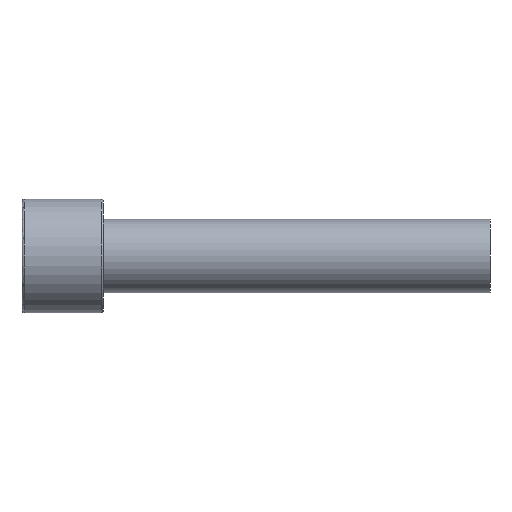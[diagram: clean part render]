
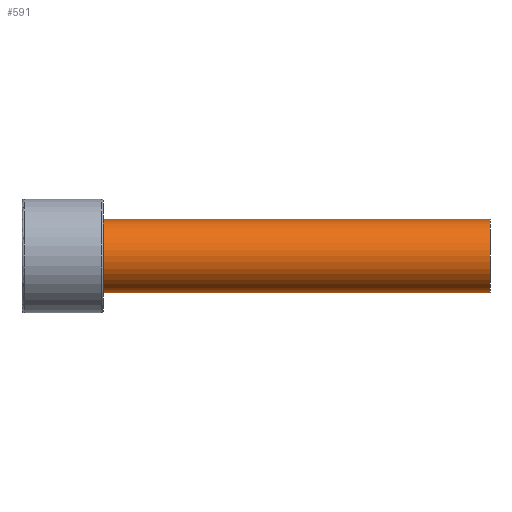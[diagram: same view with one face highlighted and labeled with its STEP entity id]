
A CAD part, front view. The second image highlights one B-rep face of the part: STEP entity #591.
In plain terms, the highlighted cylindrical face has radius 9 mm (diameter 18 mm), a partial arc.
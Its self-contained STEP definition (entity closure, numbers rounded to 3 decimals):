
#425=CARTESIAN_POINT('Vertex',(115.,0.,9.)) ;
#428=CARTESIAN_POINT('Axis2P3D Location',(115.,0.,0.)) ;
#432=CARTESIAN_POINT('Vertex',(115.,-9.,0.)) ;
#435=CARTESIAN_POINT('Axis2P3D Location',(115.,0.,0.)) ;
#439=CARTESIAN_POINT('Vertex',(115.,0.,-9.)) ;
#531=CARTESIAN_POINT('Line Origine',(115.,0.,9.)) ;
#535=CARTESIAN_POINT('Vertex',(20.,0.,9.)) ;
#538=CARTESIAN_POINT('Line Origine',(115.,0.,-9.)) ;
#542=CARTESIAN_POINT('Vertex',(20.,0.,-9.)) ;
#566=CARTESIAN_POINT('Axis2P3D Location',(115.,0.,0.)) ;
#571=CARTESIAN_POINT('Axis2P3D Location',(20.,0.,0.)) ;
#575=CARTESIAN_POINT('Vertex',(20.,-9.,0.)) ;
#578=CARTESIAN_POINT('Axis2P3D Location',(20.,0.,0.)) ;
#429=DIRECTION('Axis2P3D Direction',(1.,0.,-0.)) ;
#436=DIRECTION('Axis2P3D Direction',(1.,0.,-0.)) ;
#532=DIRECTION('Vector Direction',(-1.,0.,0.)) ;
#539=DIRECTION('Vector Direction',(-1.,0.,0.)) ;
#567=DIRECTION('Axis2P3D Direction',(-1.,-0.,-0.)) ;
#568=DIRECTION('Axis2P3D XDirection',(0.,0.,-1.)) ;
#572=DIRECTION('Axis2P3D Direction',(-1.,-0.,-0.)) ;
#579=DIRECTION('Axis2P3D Direction',(-1.,-0.,-0.)) ;
#430=AXIS2_PLACEMENT_3D('Circle Axis2P3D',#428,#429,$) ;
#437=AXIS2_PLACEMENT_3D('Circle Axis2P3D',#435,#436,$) ;
#569=AXIS2_PLACEMENT_3D('Cylinder Axis2P3D',#566,#567,#568) ;
#573=AXIS2_PLACEMENT_3D('Circle Axis2P3D',#571,#572,$) ;
#580=AXIS2_PLACEMENT_3D('Circle Axis2P3D',#578,#579,$) ;
#584=ORIENTED_EDGE('',*,*,#544,.T.) ;
#585=ORIENTED_EDGE('',*,*,#441,.F.) ;
#586=ORIENTED_EDGE('',*,*,#434,.F.) ;
#587=ORIENTED_EDGE('',*,*,#537,.T.) ;
#588=ORIENTED_EDGE('',*,*,#577,.T.) ;
#589=ORIENTED_EDGE('',*,*,#582,.T.) ;
#533=VECTOR('Line Direction',#532,1.) ;
#540=VECTOR('Line Direction',#539,1.) ;
#591=ADVANCED_FACE('367-18X115',(#590),#570,.T.) ;
#431=CIRCLE('generated circle',#430,9.) ;
#438=CIRCLE('generated circle',#437,9.) ;
#574=CIRCLE('generated circle',#573,9.) ;
#581=CIRCLE('generated circle',#580,9.) ;
#570=CYLINDRICAL_SURFACE('generated cylinder',#569,9.) ;
#434=EDGE_CURVE('',#426,#433,#431,.T.) ;
#441=EDGE_CURVE('',#433,#440,#438,.T.) ;
#537=EDGE_CURVE('',#426,#536,#534,.T.) ;
#544=EDGE_CURVE('',#543,#440,#541,.F.) ;
#577=EDGE_CURVE('',#536,#576,#574,.F.) ;
#582=EDGE_CURVE('',#576,#543,#581,.F.) ;
#583=EDGE_LOOP('',(#584,#585,#586,#587,#588,#589)) ;
#590=FACE_OUTER_BOUND('',#583,.T.) ;
#534=LINE('Line',#531,#533) ;
#541=LINE('Line',#538,#540) ;
#426=VERTEX_POINT('',#425) ;
#433=VERTEX_POINT('',#432) ;
#440=VERTEX_POINT('',#439) ;
#536=VERTEX_POINT('',#535) ;
#543=VERTEX_POINT('',#542) ;
#576=VERTEX_POINT('',#575) ;
